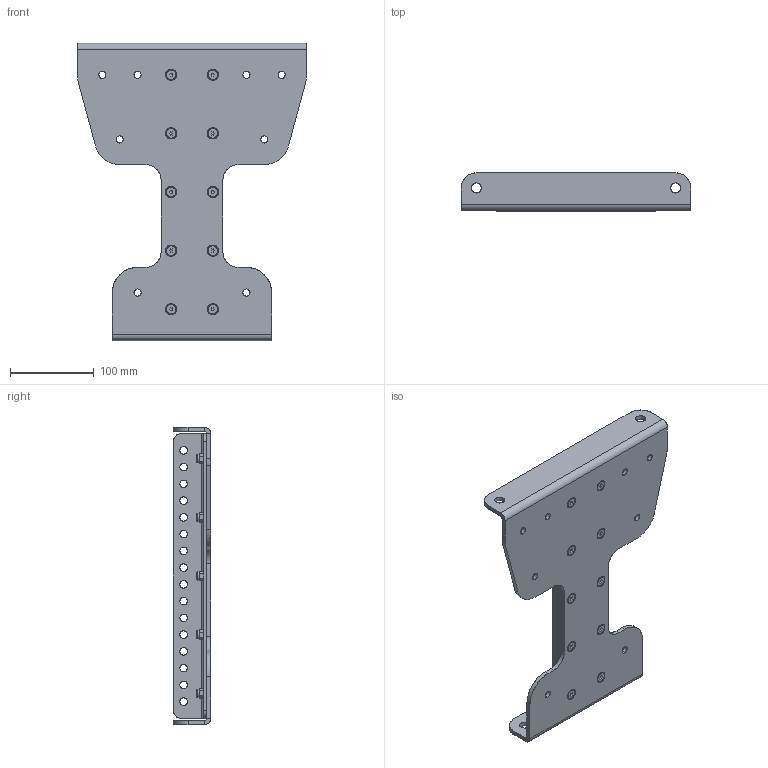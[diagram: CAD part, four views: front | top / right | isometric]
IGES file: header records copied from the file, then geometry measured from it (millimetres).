
Start section: SolidWorks IGES file using analytic representation for surfaces
Global section: file name: D:\Entwicklungen\Projekte fertig.ung\K-Serie\3D Daten Homepage\SEEBURG_K30_Cradle.IGS; native system: SolidWorks 2023; preprocessor: SolidWorks 2023; author: Alex; date: 260625.122343; units: millimetre
Bounding box: 274 x 45 x 355 mm (x, y, z)
Surface area: 268809.3 mm2 (no closed solid volume)
Topology: 0 solids, 0 shells, 880 faces, 11900 edges, 11880 vertices
Faces by surface type: revolution 518, bspline 362
